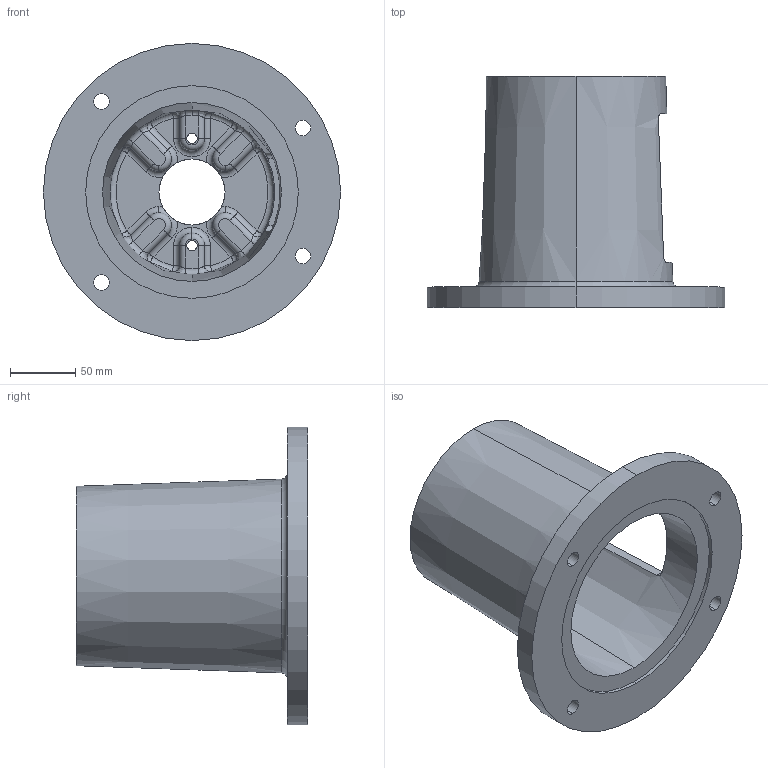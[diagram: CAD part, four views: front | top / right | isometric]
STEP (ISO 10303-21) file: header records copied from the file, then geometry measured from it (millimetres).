
FILE_DESCRIPTION (( 'STEP AP203' ), '1' );
FILE_NAME ('E644702AA.STEP', '2014-11-03T18:09:18', ( '' ), ( '' ), 'SwSTEP 2.0', 'SolidWorks 2014', '' );
FILE_SCHEMA (( 'CONFIG_CONTROL_DESIGN' ));
Length unit declared in the file: inch
Products named in the file (1): E644702AA
Bounding box: 228.6 x 177.8 x 228.6 mm (x, y, z)
Volume: 903139.7 mm3; surface area: 220984 mm2
Topology: 1 solids, 1 shells, 158 faces, 383 edges, 217 vertices
Faces by surface type: cylinder 55, torus 33, plane 30, bspline 24, sphere 12, cone 4
Entity records: 6250 total; most frequent: CARTESIAN_POINT 2589, DIRECTION 791, ORIENTED_EDGE 742, EDGE_CURVE 371, AXIS2_PLACEMENT_3D 349, VERTEX_POINT 217, CIRCLE 214, EDGE_LOOP 176
